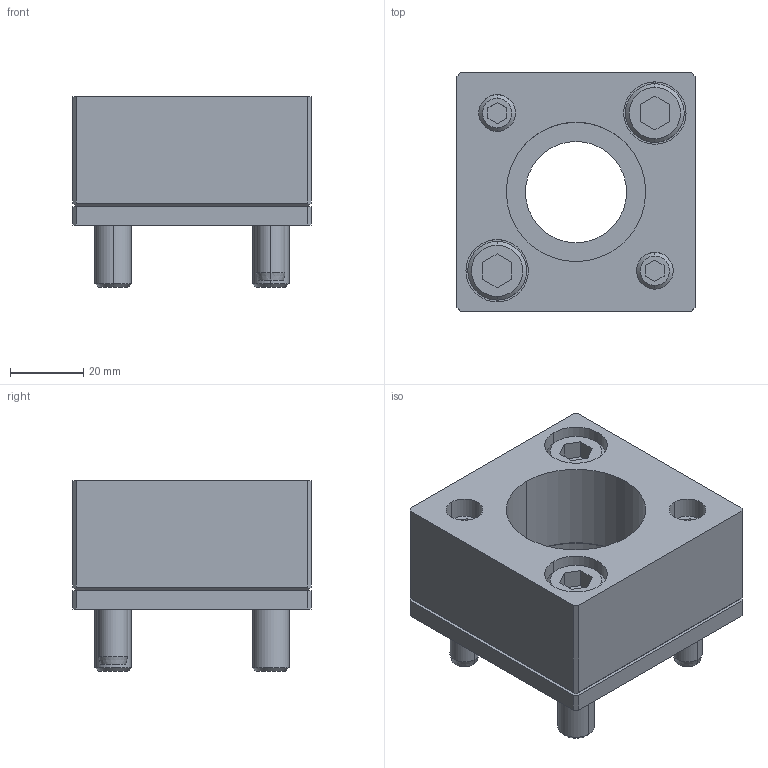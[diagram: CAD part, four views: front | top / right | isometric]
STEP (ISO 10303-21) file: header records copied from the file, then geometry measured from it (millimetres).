
FILE_DESCRIPTION(/* description */ (''),/* implementation_level */ '2;1');
FILE_NAME(/* name */ '3d_sr-ad38_02897_r00.stp',/* time_stamp */ '2011-01-10T14:10:00+09:00',/* author */ ('MISUMI'),/* organization */ (''),/* preprocessor_version */ 'ST-DEVELOPER v11',/* originating_system */ 'UGS - NX 5.0',/* authorisation */ '');
FILE_SCHEMA (('CONFIG_CONTROL_DESIGN'));
Length unit declared in the file: millimetre
Products named in the file (1): 3d_sr-ad38_02897_r00
Bounding box: 65 x 65 x 52 mm (x, y, z)
Volume: 111847.6 mm3; surface area: 36535.3 mm2
Topology: 8 solids, 8 shells, 155 faces, 346 edges, 222 vertices
Faces by surface type: plane 77, cylinder 52, cone 26
Entity records: 4440 total; most frequent: DIRECTION 784, CARTESIAN_POINT 766, ORIENTED_EDGE 692, EDGE_CURVE 346, AXIS2_PLACEMENT_3D 286, VERTEX_POINT 222, LINE 212, VECTOR 212
